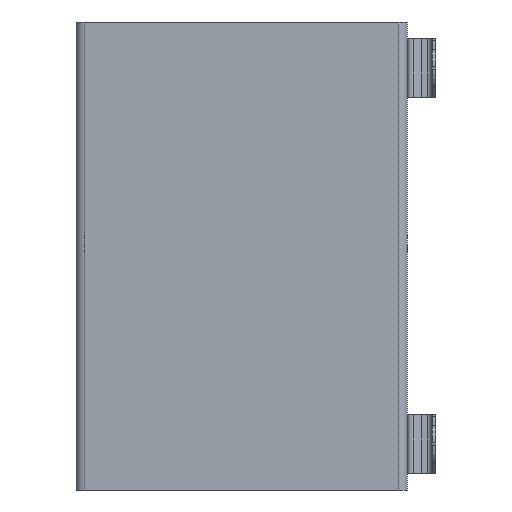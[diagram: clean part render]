
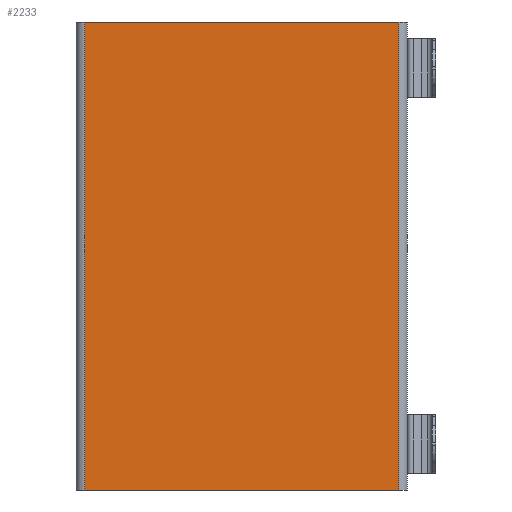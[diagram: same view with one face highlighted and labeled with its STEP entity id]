
A CAD part, left-side view. The second image highlights one B-rep face of the part: STEP entity #2233.
In plain terms, the highlighted planar face has unit normal (-1, 0, 0).
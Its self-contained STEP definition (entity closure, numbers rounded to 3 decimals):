
#131=PLANE('',#2464);
#207=FACE_OUTER_BOUND('',#337,.T.);
#337=EDGE_LOOP('',(#1583,#1584,#1585,#1586));
#500=LINE('',#3459,#690);
#501=LINE('',#3461,#691);
#502=LINE('',#3463,#692);
#503=LINE('',#3464,#693);
#690=VECTOR('',#2782,10.);
#691=VECTOR('',#2783,10.);
#692=VECTOR('',#2784,10.);
#693=VECTOR('',#2785,10.);
#978=VERTEX_POINT('',#3452);
#979=VERTEX_POINT('',#3458);
#980=VERTEX_POINT('',#3460);
#981=VERTEX_POINT('',#3462);
#1217=EDGE_CURVE('',#979,#978,#500,.T.);
#1218=EDGE_CURVE('',#980,#979,#501,.T.);
#1219=EDGE_CURVE('',#980,#981,#502,.T.);
#1220=EDGE_CURVE('',#978,#981,#503,.T.);
#1583=ORIENTED_EDGE('',*,*,#1217,.F.);
#1584=ORIENTED_EDGE('',*,*,#1218,.F.);
#1585=ORIENTED_EDGE('',*,*,#1219,.T.);
#1586=ORIENTED_EDGE('',*,*,#1220,.F.);
#2233=ADVANCED_FACE('',(#207),#131,.F.);
#2464=AXIS2_PLACEMENT_3D('',#3457,#2780,#2781);
#2780=DIRECTION('center_axis',(1.,0.,0.));
#2781=DIRECTION('ref_axis',(0.,0.,1.));
#2782=DIRECTION('',(0.,0.,1.));
#2783=DIRECTION('',(0.,1.,0.));
#2784=DIRECTION('',(0.,0.,1.));
#2785=DIRECTION('',(0.,-1.,0.));
#3452=CARTESIAN_POINT('',(-33.2,37.6,0.));
#3457=CARTESIAN_POINT('Origin',(-33.2,3.131,-56.));
#3458=CARTESIAN_POINT('',(-33.2,37.6,-112.));
#3459=CARTESIAN_POINT('',(-33.2,37.6,-56.));
#3460=CARTESIAN_POINT('',(-33.2,-37.6,-112.));
#3461=CARTESIAN_POINT('',(-33.2,104.524,-112.));
#3462=CARTESIAN_POINT('',(-33.2,-37.6,0.));
#3463=CARTESIAN_POINT('',(-33.2,-37.6,-56.));
#3464=CARTESIAN_POINT('',(-33.2,-104.262,0.));
